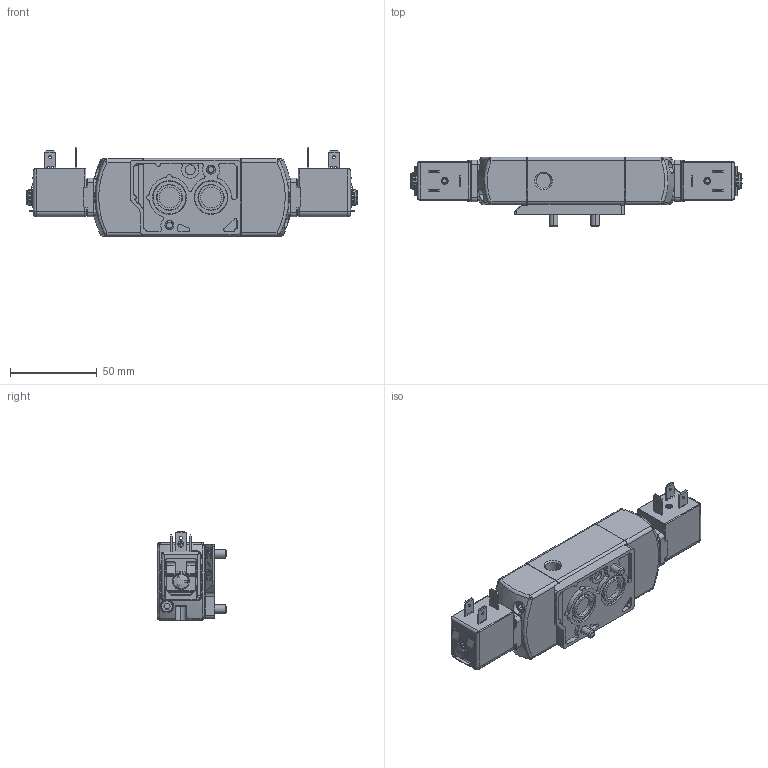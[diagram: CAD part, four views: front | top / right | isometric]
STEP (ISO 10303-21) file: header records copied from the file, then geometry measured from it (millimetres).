
FILE_DESCRIPTION (( 'STEP AP214' ), '1' );
FILE_NAME ('TVC6-X421-4N-XXX.STEP', '2025-05-09T13:34:20', ( '' ), ( '' ), 'SwSTEP 2.0', 'SolidWorks 2023', '' );
FILE_SCHEMA (( 'AUTOMOTIVE_DESIGN' ));
Length unit declared in the file: inch
Products named in the file (1): TVC6-X421-4N-XXX
Bounding box: 191.62 x 40.3 x 51.9 mm (x, y, z)
Volume: 185571.9 mm3; surface area: 37157.4 mm2
Topology: 3 solids, 3 shells, 1253 faces, 3328 edges, 2131 vertices
Faces by surface type: plane 678, cylinder 427, bspline 104, cone 40, torus 4
Entity records: 43254 total; most frequent: CARTESIAN_POINT 12412, ORIENTED_EDGE 6614, DIRECTION 6213, EDGE_CURVE 3307, VERTEX_POINT 2131, VECTOR 2109, LINE 2109, AXIS2_PLACEMENT_3D 2052
